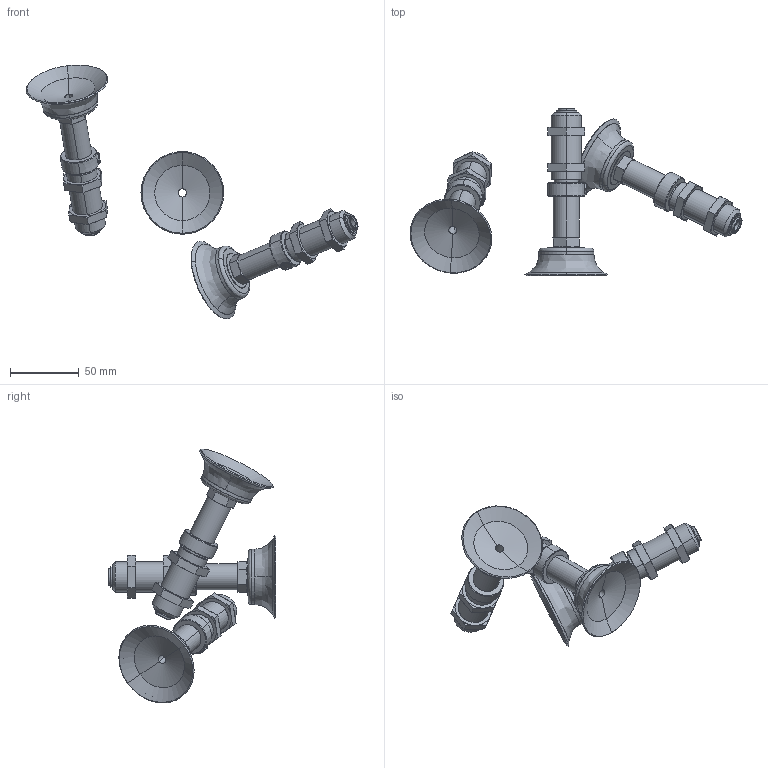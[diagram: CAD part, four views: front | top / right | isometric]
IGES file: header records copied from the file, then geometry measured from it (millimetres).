
Start section: SolidWorks IGES file using analytic representation for surfaces
Global section: file name: C:\Users\Administrator\Desktop\gripper\suction gripper-2.IGS; native system: SolidWorks 2010; preprocessor: SolidWorks 2010; author: Administrator; date: 130807.210723; units: metre
Bounding box: 240.74 x 121.5 x 184.12 mm (x, y, z)
Surface area: 64818.8 mm2 (no closed solid volume)
Topology: 0 solids, 0 shells, 441 faces, 5985 edges, 5985 vertices
Faces by surface type: revolution 291, bspline 150
